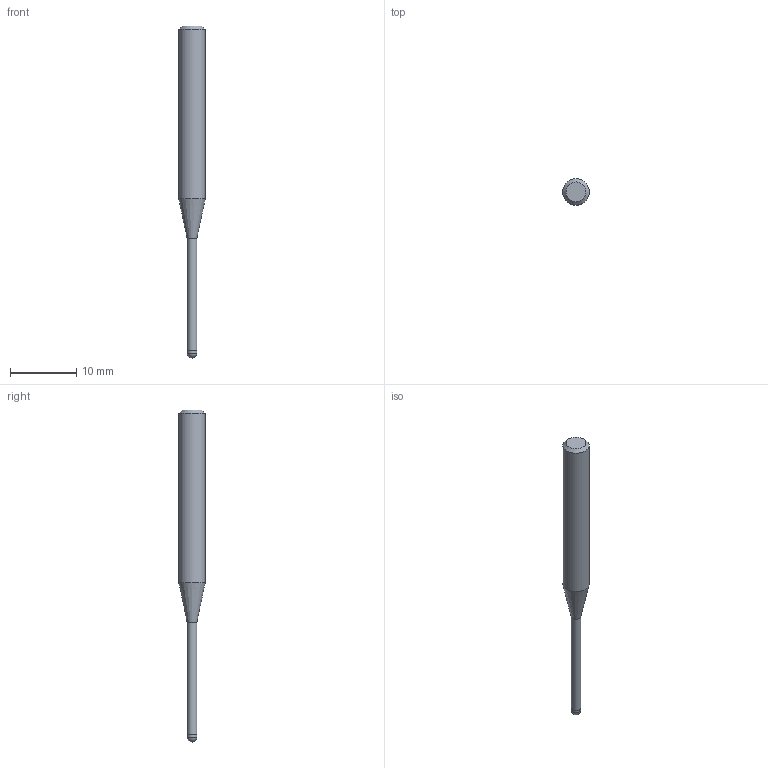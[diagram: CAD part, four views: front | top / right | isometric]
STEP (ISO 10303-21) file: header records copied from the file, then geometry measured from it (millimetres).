
FILE_DESCRIPTION((''),'2;1');
FILE_NAME('C:\Users\nsx150\AppData\Local\Temp\Mastercam 2021\ZXBT0ST9RL\TEMP.step','2021-06-25T11:03:05',(''),(''),'STEP Write','Mastercam 2021 ... CNC Software, Inc.','');
FILE_SCHEMA(('AUTOMOTIVE_DESIGN'));
Length unit declared in the file: millimetre
Products named in the file (1): None
Bounding box: 4 x 4 x 50 mm (x, y, z)
Volume: 392.3 mm3; surface area: 473.4 mm2
Topology: 2 solids, 2 shells, 9 faces, 14 edges, 8 vertices
Faces by surface type: plane 3, cylinder 3, cone 2, sphere 1
Full cylindrical faces by diameter (mm): 1.45 x1, 1.5 x1, 4 x1
Entity records: 211 total; most frequent: DIRECTION 36, CARTESIAN_POINT 25, AXIS2_PLACEMENT_3D 18, ORIENTED_EDGE 14, EDGE_LOOP 14, STYLED_ITEM 12, ADVANCED_FACE 9, FACE_BOUND 8
